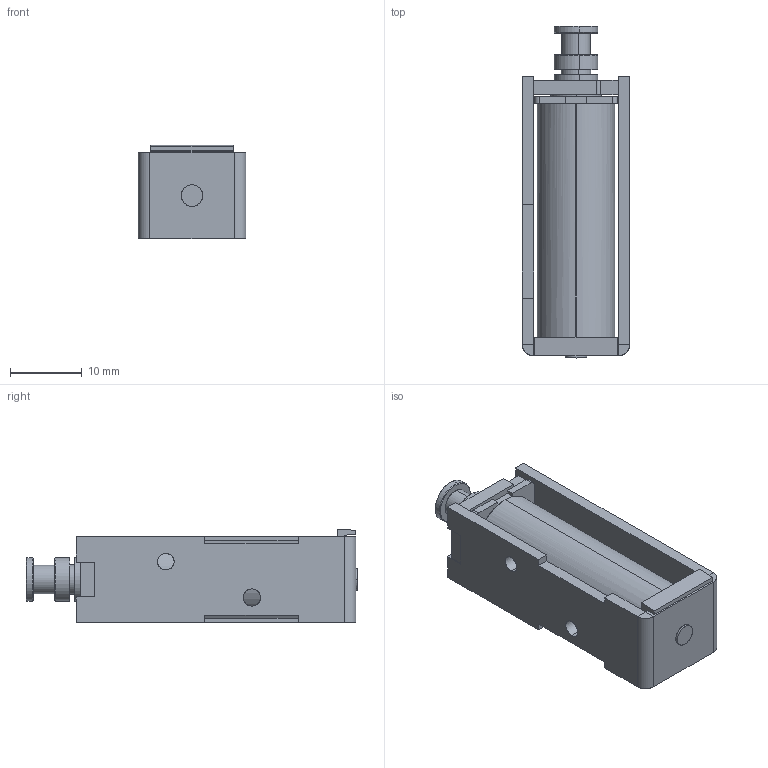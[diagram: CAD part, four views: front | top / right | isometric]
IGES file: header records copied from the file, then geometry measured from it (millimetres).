
Start section: SolidWorks IGES file using analytic representation for surfaces
Global section: file name: L:\カタログ\web用3Dデータ\CA0639\3D_CA0639\w_ca0639.IGS; native system: SolidWorks 2017; preprocessor: SolidWorks 2017; author: yakata; date: 171130.141603; units: millimetre
Bounding box: 15 x 46.3 x 13 mm (x, y, z)
Surface area: 12640.1 mm2 (no closed solid volume)
Topology: 0 solids, 0 shells, 217 faces, 2680 edges, 2680 vertices
Faces by surface type: bspline 145, revolution 72
